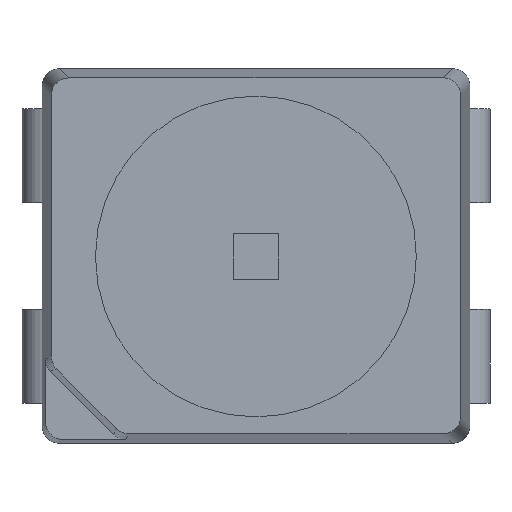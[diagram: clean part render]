
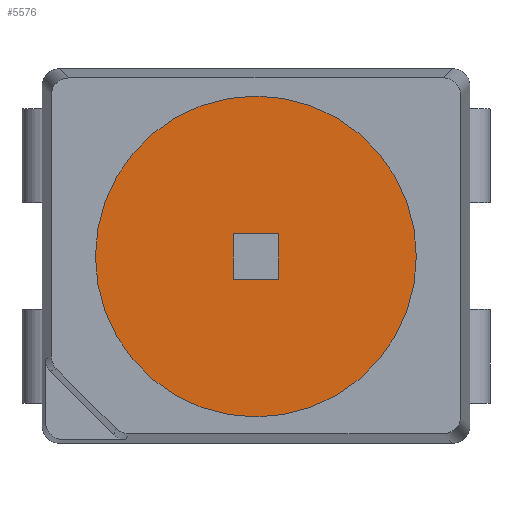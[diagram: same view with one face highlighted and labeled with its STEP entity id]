
A CAD part, top view. The second image highlights one B-rep face of the part: STEP entity #5576.
In plain terms, the highlighted planar face has unit normal (0, 0, 1).
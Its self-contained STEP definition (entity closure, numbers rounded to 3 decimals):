
#67 = VERTEX_POINT ( 'NONE', #13642 ) ;
#607 = CIRCLE ( 'NONE', #5542, 1.2 ) ;
#915 = CARTESIAN_POINT ( 'NONE',  ( 3.469, 5.243, -0.005 ) ) ;
#1366 = CARTESIAN_POINT ( 'NONE',  ( 3.129, 5.243, -0.005 ) ) ;
#1663 = LINE ( 'NONE', #6080, #7618 ) ;
#2107 = CARTESIAN_POINT ( 'NONE',  ( 3.299, 5.073, -0.005 ) ) ;
#2153 = DIRECTION ( 'NONE',  ( 1., 0., 0. ) ) ;
#2354 = PLANE ( 'NONE',  #3606 ) ;
#3110 = EDGE_CURVE ( 'NONE', #12735, #6698, #15574, .T. ) ;
#3475 = DIRECTION ( 'NONE',  ( 0., 0., 1. ) ) ;
#3510 = LINE ( 'NONE', #6364, #6326 ) ;
#3606 = AXIS2_PLACEMENT_3D ( 'NONE', #4185, #12947, #4008 ) ;
#4008 = DIRECTION ( 'NONE',  ( 1., 0., 0. ) ) ;
#4185 = CARTESIAN_POINT ( 'NONE',  ( 3.299, 5.073, -0.005 ) ) ;
#5519 = ORIENTED_EDGE ( 'NONE', *, *, #14734, .F. ) ;
#5542 = AXIS2_PLACEMENT_3D ( 'NONE', #2107, #3475, #9416 ) ;
#5576 = ADVANCED_FACE ( 'NONE', ( #15564, #8200 ), #2354, .T. ) ;
#6080 = CARTESIAN_POINT ( 'NONE',  ( 3.129, 5.243, -0.005 ) ) ;
#6206 = VERTEX_POINT ( 'NONE', #13595 ) ;
#6326 = VECTOR ( 'NONE', #2153, 1000. ) ;
#6364 = CARTESIAN_POINT ( 'NONE',  ( 3.129, 4.903, -0.005 ) ) ;
#6698 = VERTEX_POINT ( 'NONE', #915 ) ;
#6865 = CARTESIAN_POINT ( 'NONE',  ( 3.469, 5.243, -0.005 ) ) ;
#7432 = ORIENTED_EDGE ( 'NONE', *, *, #3110, .F. ) ;
#7618 = VECTOR ( 'NONE', #13126, 1000. ) ;
#7856 = LINE ( 'NONE', #13948, #14555 ) ;
#7959 = DIRECTION ( 'NONE',  ( 0., -1., 0. ) ) ;
#8200 = FACE_OUTER_BOUND ( 'NONE', #9684, .T. ) ;
#8400 = DIRECTION ( 'NONE',  ( 0., 1., 0. ) ) ;
#9416 = DIRECTION ( 'NONE',  ( 1., 0., 0. ) ) ;
#9461 = DIRECTION ( 'NONE',  ( 0., 0., 1. ) ) ;
#9684 = EDGE_LOOP ( 'NONE', ( #13370, #18746 ) ) ;
#9800 = ORIENTED_EDGE ( 'NONE', *, *, #13287, .F. ) ;
#10892 = CARTESIAN_POINT ( 'NONE',  ( 3.299, 5.073, -0.005 ) ) ;
#11225 = EDGE_CURVE ( 'NONE', #14717, #6206, #607, .T. ) ;
#11439 = AXIS2_PLACEMENT_3D ( 'NONE', #10892, #9461, #18072 ) ;
#11530 = CARTESIAN_POINT ( 'NONE',  ( 3.469, 4.903, -0.005 ) ) ;
#12262 = EDGE_CURVE ( 'NONE', #6206, #14717, #16421, .T. ) ;
#12271 = ORIENTED_EDGE ( 'NONE', *, *, #18153, .F. ) ;
#12735 = VERTEX_POINT ( 'NONE', #11530 ) ;
#12793 = VECTOR ( 'NONE', #8400, 1000. ) ;
#12947 = DIRECTION ( 'NONE',  ( 0., 0., 1. ) ) ;
#13126 = DIRECTION ( 'NONE',  ( -1., 0., 0. ) ) ;
#13287 = EDGE_CURVE ( 'NONE', #67, #12735, #3510, .T. ) ;
#13370 = ORIENTED_EDGE ( 'NONE', *, *, #12262, .T. ) ;
#13435 = VERTEX_POINT ( 'NONE', #1366 ) ;
#13595 = CARTESIAN_POINT ( 'NONE',  ( 4.499, 5.073, -0.005 ) ) ;
#13642 = CARTESIAN_POINT ( 'NONE',  ( 3.129, 4.903, -0.005 ) ) ;
#13948 = CARTESIAN_POINT ( 'NONE',  ( 3.129, 5.243, -0.005 ) ) ;
#14555 = VECTOR ( 'NONE', #7959, 1000. ) ;
#14717 = VERTEX_POINT ( 'NONE', #17686 ) ;
#14734 = EDGE_CURVE ( 'NONE', #6698, #13435, #1663, .T. ) ;
#15564 = FACE_BOUND ( 'NONE', #18934, .T. ) ;
#15574 = LINE ( 'NONE', #6865, #12793 ) ;
#16421 = CIRCLE ( 'NONE', #11439, 1.2 ) ;
#17686 = CARTESIAN_POINT ( 'NONE',  ( 2.099, 5.073, -0.005 ) ) ;
#18072 = DIRECTION ( 'NONE',  ( 1., 0., 0. ) ) ;
#18153 = EDGE_CURVE ( 'NONE', #13435, #67, #7856, .T. ) ;
#18746 = ORIENTED_EDGE ( 'NONE', *, *, #11225, .T. ) ;
#18934 = EDGE_LOOP ( 'NONE', ( #9800, #12271, #5519, #7432 ) ) ;
